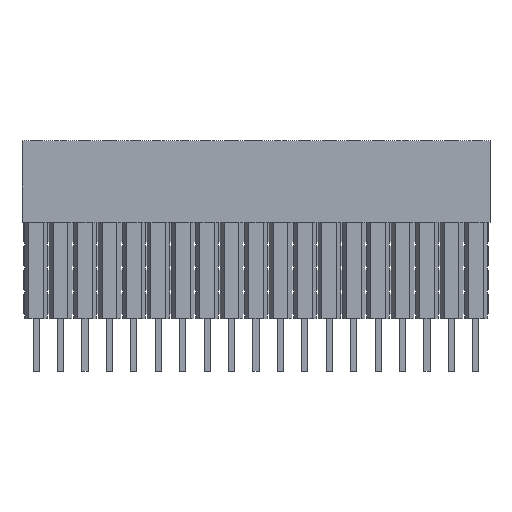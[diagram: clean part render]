
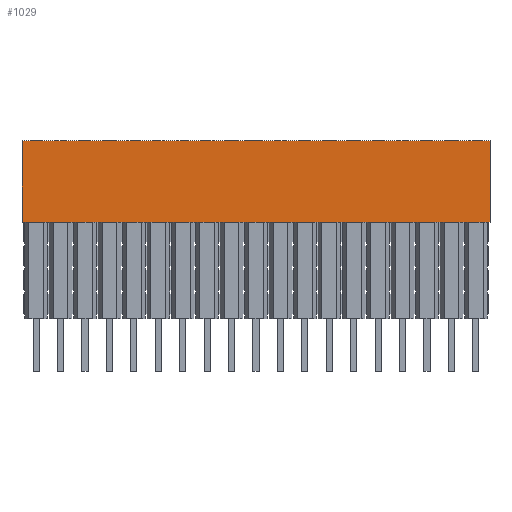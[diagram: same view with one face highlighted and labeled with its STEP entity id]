
A CAD part, top view. The second image highlights one B-rep face of the part: STEP entity #1029.
In plain terms, the highlighted planar face has unit normal (0, 0, 1).
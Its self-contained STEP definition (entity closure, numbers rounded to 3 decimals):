
#1029=ADVANCED_FACE('',(#3141),#2089,.T.);
#2089=PLANE('',#23718);
#3141=FACE_OUTER_BOUND('',#4351,.T.);
#4351=EDGE_LOOP('',(#9631,#9632,#9633,#9634));
#9631=ORIENTED_EDGE('',*,*,#15626,.F.);
#9632=ORIENTED_EDGE('',*,*,#15627,.T.);
#9633=ORIENTED_EDGE('',*,*,#15623,.T.);
#9634=ORIENTED_EDGE('',*,*,#15628,.T.);
#12671=VERTEX_POINT('',#34129);
#12672=VERTEX_POINT('',#34130);
#12673=VERTEX_POINT('',#34135);
#12674=VERTEX_POINT('',#34136);
#15623=EDGE_CURVE('',#12671,#12672,#18887,.T.);
#15626=EDGE_CURVE('',#12673,#12674,#18890,.T.);
#15627=EDGE_CURVE('',#12673,#12671,#18891,.T.);
#15628=EDGE_CURVE('',#12672,#12674,#18892,.T.);
#18887=LINE('',#34128,#22151);
#18890=LINE('',#34134,#22154);
#18891=LINE('',#34137,#22155);
#18892=LINE('',#34138,#22156);
#22151=VECTOR('',#28048,1.);
#22154=VECTOR('',#28053,1.);
#22155=VECTOR('',#28054,1.);
#22156=VECTOR('',#28055,1.);
#23718=AXIS2_PLACEMENT_3D('',#34139,#28056,#28057);
#28048=DIRECTION('',(1.,0.,0.));
#28053=DIRECTION('',(1.,0.,0.));
#28054=DIRECTION('',(0.,-1.,0.));
#28055=DIRECTION('',(0.,1.,0.));
#28056=DIRECTION('',(0.,0.,1.));
#28057=DIRECTION('',(-1.,0.,0.));
#34128=CARTESIAN_POINT('',(-38.1,0.,0.02));
#34129=CARTESIAN_POINT('',(-53.34,0.,0.02));
#34130=CARTESIAN_POINT('',(-4.68,0.,0.02));
#34134=CARTESIAN_POINT('',(-38.1,8.5,0.02));
#34135=CARTESIAN_POINT('',(-53.34,8.5,0.02));
#34136=CARTESIAN_POINT('',(-4.68,8.5,0.02));
#34137=CARTESIAN_POINT('',(-53.34,0.,0.02));
#34138=CARTESIAN_POINT('',(-4.68,0.,0.02));
#34139=CARTESIAN_POINT('',(-38.1,0.,0.02));
